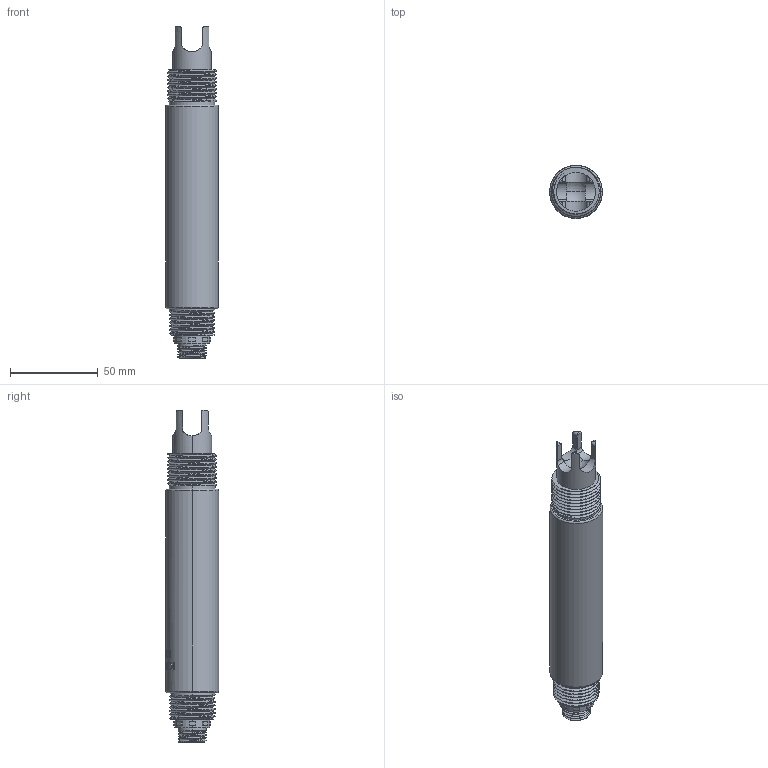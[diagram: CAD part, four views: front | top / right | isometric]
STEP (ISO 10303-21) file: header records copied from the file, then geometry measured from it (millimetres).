
FILE_DESCRIPTION((''),'2;1');
FILE_NAME('ASM0001_ASM','2025-12-25T15:41:00',('28740194'),(''),'CREO PARAMETRIC BY PTC INC, 2024063','CREO PARAMETRIC BY PTC INC, 2024063','');
FILE_SCHEMA(('CONFIG_CONTROL_DESIGN'));
Length unit declared in the file: millimetre
Products named in the file (3): KWS-250-1; 20001; ASM0001_ASM
Assembly tree (2 placements, depth 2):
  ASM0001_ASM
    KWS-250-1
    20001
Bounding box: 30 x 30.23 x 189 mm (x, y, z)
Volume: 9375.8 mm3; surface area: 20978.2 mm2
Topology: 1 solids, 5 shells, 525 faces, 1461 edges, 968 vertices
Faces by surface type: bspline 354, cylinder 93, plane 68, sphere 6, torus 4
Entity records: 27575 total; most frequent: CARTESIAN_POINT 16766, ORIENTED_EDGE 2906, EDGE_CURVE 1465, DIRECTION 1078, VERTEX_POINT 975, B_SPLINE_CURVE_WITH_KNOTS 958, EDGE_LOOP 553, FACE_OUTER_BOUND 524
